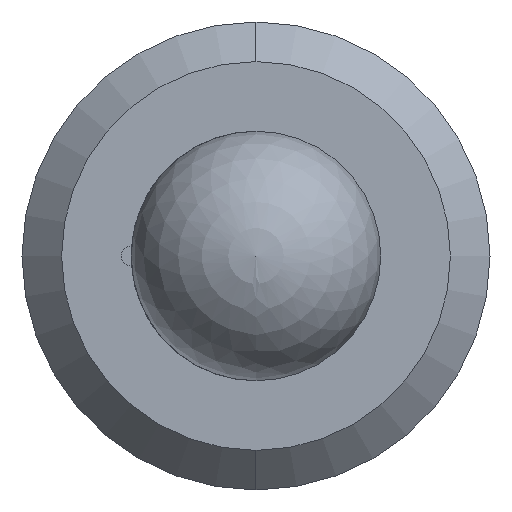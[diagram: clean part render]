
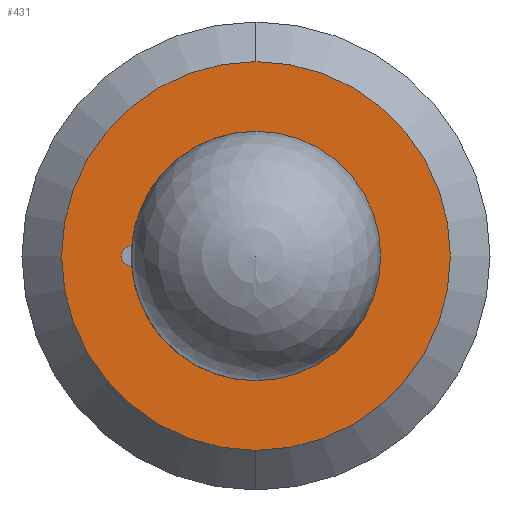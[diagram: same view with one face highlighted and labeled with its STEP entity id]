
A CAD part, left-side view. The second image highlights one B-rep face of the part: STEP entity #431.
In plain terms, the highlighted planar face has unit normal (-1, 0, 0).
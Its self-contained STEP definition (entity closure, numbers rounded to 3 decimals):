
#19 = VERTEX_POINT ( 'NONE', #588 ) ;
#26 = AXIS2_PLACEMENT_3D ( 'NONE', #728, #401, #39 ) ;
#39 = DIRECTION ( 'NONE',  ( 0., 0., 1. ) ) ;
#49 = VERTEX_POINT ( 'NONE', #123 ) ;
#52 = CARTESIAN_POINT ( 'NONE',  ( 0., 0., 0. ) ) ;
#67 = CARTESIAN_POINT ( 'NONE',  ( 0., 0.8, 0. ) ) ;
#78 = CARTESIAN_POINT ( 'NONE',  ( 0., 0.797, 0.063 ) ) ;
#81 = AXIS2_PLACEMENT_3D ( 'NONE', #686, #349, #731 ) ;
#83 = ORIENTED_EDGE ( 'NONE', *, *, #477, .F. ) ;
#87 = CIRCLE ( 'NONE', #390, 1.246 ) ;
#101 = DIRECTION ( 'NONE',  ( -1., 0., 0. ) ) ;
#107 = CARTESIAN_POINT ( 'NONE',  ( 0., 0., 0. ) ) ;
#110 = DIRECTION ( 'NONE',  ( 0., 0., -1. ) ) ;
#111 = AXIS2_PLACEMENT_3D ( 'NONE', #67, #584, #159 ) ;
#121 = EDGE_CURVE ( 'NONE', #553, #253, #128, .T. ) ;
#122 = CARTESIAN_POINT ( 'NONE',  ( 0., 0., -0.8 ) ) ;
#123 = CARTESIAN_POINT ( 'NONE',  ( 0., 0.797, -0.063 ) ) ;
#124 = ORIENTED_EDGE ( 'NONE', *, *, #280, .F. ) ;
#128 = CIRCLE ( 'NONE', #26, 0.8 ) ;
#135 = FACE_OUTER_BOUND ( 'NONE', #307, .T. ) ;
#143 = EDGE_CURVE ( 'NONE', #737, #378, #566, .T. ) ;
#159 = DIRECTION ( 'NONE',  ( 0., 0., 1. ) ) ;
#161 = CARTESIAN_POINT ( 'NONE',  ( 0., 0., 0. ) ) ;
#165 = EDGE_CURVE ( 'NONE', #378, #49, #643, .T. ) ;
#170 = DIRECTION ( 'NONE',  ( 0., 0., -1. ) ) ;
#189 = ORIENTED_EDGE ( 'NONE', *, *, #165, .F. ) ;
#193 = CARTESIAN_POINT ( 'NONE',  ( 0., 0., -1.246 ) ) ;
#205 = ORIENTED_EDGE ( 'NONE', *, *, #121, .F. ) ;
#216 = EDGE_LOOP ( 'NONE', ( #473, #189, #690, #124, #83, #205 ) ) ;
#232 = DIRECTION ( 'NONE',  ( 0., 0., 1. ) ) ;
#253 = VERTEX_POINT ( 'NONE', #336 ) ;
#263 = DIRECTION ( 'NONE',  ( -1., 0., 0. ) ) ;
#272 = EDGE_CURVE ( 'NONE', #49, #553, #586, .T. ) ;
#280 = EDGE_CURVE ( 'NONE', #636, #737, #557, .T. ) ;
#283 = EDGE_CURVE ( 'NONE', #396, #19, #694, .T. ) ;
#299 = FACE_BOUND ( 'NONE', #216, .T. ) ;
#307 = EDGE_LOOP ( 'NONE', ( #519, #490 ) ) ;
#316 = AXIS2_PLACEMENT_3D ( 'NONE', #460, #101, #585 ) ;
#336 = CARTESIAN_POINT ( 'NONE',  ( 0., 0., 0.8 ) ) ;
#342 = DIRECTION ( 'NONE',  ( -1., 0., 0. ) ) ;
#349 = DIRECTION ( 'NONE',  ( -1., 0., 0. ) ) ;
#360 = AXIS2_PLACEMENT_3D ( 'NONE', #107, #531, #170 ) ;
#378 = VERTEX_POINT ( 'NONE', #715 ) ;
#390 = AXIS2_PLACEMENT_3D ( 'NONE', #52, #475, #110 ) ;
#396 = VERTEX_POINT ( 'NONE', #193 ) ;
#401 = DIRECTION ( 'NONE',  ( -1., 0., 0. ) ) ;
#407 = PLANE ( 'NONE',  #360 ) ;
#431 = ADVANCED_FACE ( 'NONE', ( #299, #135 ), #407, .F. ) ;
#435 = EDGE_CURVE ( 'NONE', #19, #396, #87, .T. ) ;
#460 = CARTESIAN_POINT ( 'NONE',  ( 0., 0., 0. ) ) ;
#473 = ORIENTED_EDGE ( 'NONE', *, *, #272, .F. ) ;
#475 = DIRECTION ( 'NONE',  ( -1., 0., 0. ) ) ;
#477 = EDGE_CURVE ( 'NONE', #253, #636, #529, .T. ) ;
#490 = ORIENTED_EDGE ( 'NONE', *, *, #435, .T. ) ;
#519 = ORIENTED_EDGE ( 'NONE', *, *, #283, .T. ) ;
#529 = CIRCLE ( 'NONE', #316, 0.8 ) ;
#531 = DIRECTION ( 'NONE',  ( 1., 0., 0. ) ) ;
#553 = VERTEX_POINT ( 'NONE', #122 ) ;
#557 = CIRCLE ( 'NONE', #594, 0.064 ) ;
#566 = CIRCLE ( 'NONE', #81, 0.064 ) ;
#576 = DIRECTION ( 'NONE',  ( -1., 0., 0. ) ) ;
#583 = AXIS2_PLACEMENT_3D ( 'NONE', #600, #263, #654 ) ;
#584 = DIRECTION ( 'NONE',  ( -1., 0., 0. ) ) ;
#585 = DIRECTION ( 'NONE',  ( 0., 0., 1. ) ) ;
#586 = CIRCLE ( 'NONE', #640, 0.8 ) ;
#588 = CARTESIAN_POINT ( 'NONE',  ( 0., 0., 1.246 ) ) ;
#594 = AXIS2_PLACEMENT_3D ( 'NONE', #680, #342, #729 ) ;
#600 = CARTESIAN_POINT ( 'NONE',  ( 0., 0., 0. ) ) ;
#611 = CARTESIAN_POINT ( 'NONE',  ( 0., 0.8, 0.064 ) ) ;
#636 = VERTEX_POINT ( 'NONE', #78 ) ;
#640 = AXIS2_PLACEMENT_3D ( 'NONE', #161, #576, #232 ) ;
#643 = CIRCLE ( 'NONE', #111, 0.064 ) ;
#654 = DIRECTION ( 'NONE',  ( 0., 0., -1. ) ) ;
#680 = CARTESIAN_POINT ( 'NONE',  ( 0., 0.8, 0. ) ) ;
#686 = CARTESIAN_POINT ( 'NONE',  ( 0., 0.8, 0. ) ) ;
#690 = ORIENTED_EDGE ( 'NONE', *, *, #143, .F. ) ;
#694 = CIRCLE ( 'NONE', #583, 1.246 ) ;
#715 = CARTESIAN_POINT ( 'NONE',  ( 0., 0.8, -0.064 ) ) ;
#728 = CARTESIAN_POINT ( 'NONE',  ( 0., 0., 0. ) ) ;
#729 = DIRECTION ( 'NONE',  ( 0., 0., 1. ) ) ;
#731 = DIRECTION ( 'NONE',  ( 0., 0., 1. ) ) ;
#737 = VERTEX_POINT ( 'NONE', #611 ) ;
